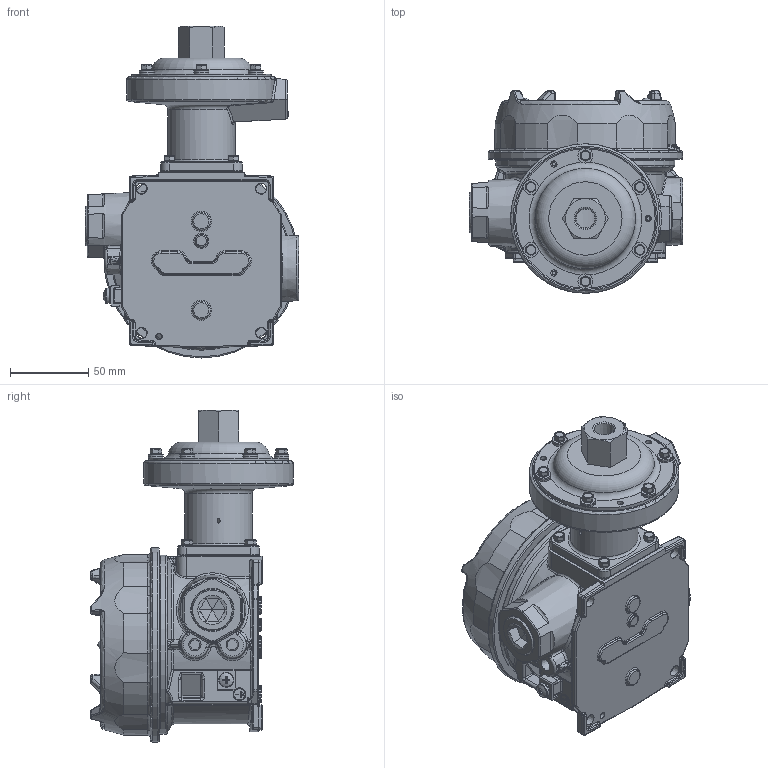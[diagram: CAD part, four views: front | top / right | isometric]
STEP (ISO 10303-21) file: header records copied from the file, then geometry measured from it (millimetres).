
FILE_DESCRIPTION (( 'STEP AP214' ), '1' );
FILE_NAME ('J120-551_553_555_V2.STEP', '2025-03-13T19:18:49', ( '' ), ( '' ), 'SwSTEP 2.0', 'SolidWorks 2023', '' );
FILE_SCHEMA (( 'AUTOMOTIVE_DESIGN' ));
Length unit declared in the file: inch
Products named in the file (1): J120-551_553_555_V2
Bounding box: 135.89 x 129.21 x 211.62 mm (x, y, z)
Surface area: 117451.6 mm2 (no closed solid volume)
Topology: 0 solids, 60 shells, 1169 faces, 3039 edges, 1854 vertices
Faces by surface type: plane 292, cylinder 269, bspline 268, torus 163, cone 147, sphere 30
Full cylindrical faces by diameter (mm): 1.981 x1, 3.22 x1, 3.962 x3, 5.556 x10, 7.366 x1, 7.874 x1, 9.5 x1, 9.525 x12, 23.812 x1, 42.926 x1, 87.312 x1, 88.9 x2, 90.424 x1, 114.046 x1, 123.952 x1
Entity records: 47739 total; most frequent: CARTESIAN_POINT 22693, ORIENTED_EDGE 5145, DIRECTION 4786, EDGE_CURVE 2879, AXIS2_PLACEMENT_3D 1991, VERTEX_POINT 1830, EDGE_LOOP 1371, FACE_OUTER_BOUND 1235
